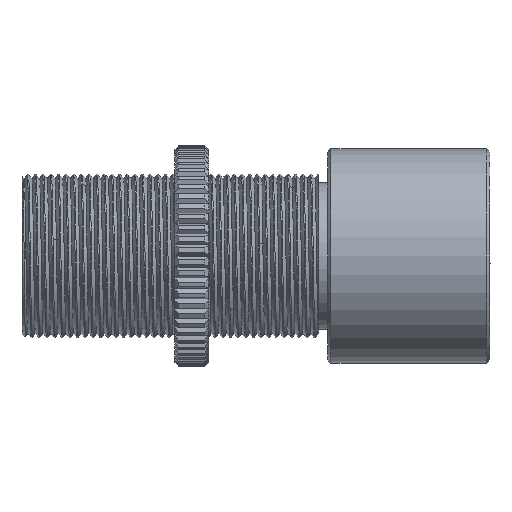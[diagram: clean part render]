
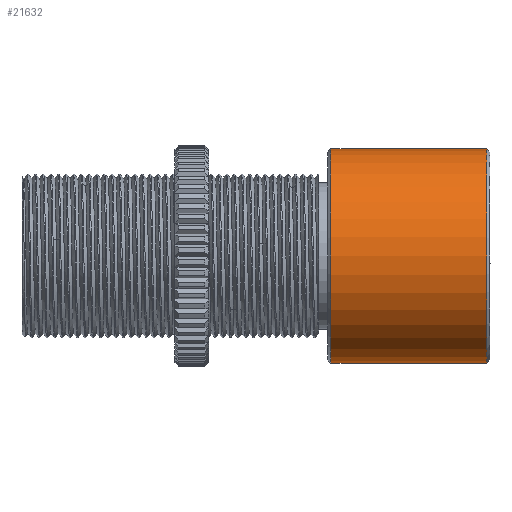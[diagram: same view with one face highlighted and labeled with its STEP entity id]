
A CAD part, front view. The second image highlights one B-rep face of the part: STEP entity #21632.
In plain terms, the highlighted cylindrical face has radius 8.89 mm (diameter 17.78 mm), a partial arc.
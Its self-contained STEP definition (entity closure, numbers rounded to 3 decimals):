
#12561=CARTESIAN_POINT('',(-0.254,0.,0.));
#12562=DIRECTION('',(1.,0.,0.));
#12563=DIRECTION('',(0.,0.,1.));
#12564=AXIS2_PLACEMENT_3D('',#12561,#12562,#12563);
#12575=DIRECTION('',(-1.,0.,0.));
#12576=VECTOR('',#12575,12.954);
#12577=CARTESIAN_POINT('',(-0.254,0.,-8.89));
#12578=LINE('',#12577,#12576);
#12612=CARTESIAN_POINT('',(-13.208,0.,0.));
#12613=DIRECTION('',(-1.,0.,0.));
#12614=DIRECTION('',(0.,0.,-1.));
#12615=AXIS2_PLACEMENT_3D('',#12612,#12613,#12614);
#12617=DIRECTION('',(-1.,0.,0.));
#12618=VECTOR('',#12617,12.954);
#12619=CARTESIAN_POINT('',(-0.254,0.,8.89));
#12620=LINE('',#12619,#12618);
#21175=CARTESIAN_POINT('',(-0.254,0.,8.89));
#21176=CARTESIAN_POINT('',(-13.208,0.,8.89));
#21177=VERTEX_POINT('',#21175);
#21178=VERTEX_POINT('',#21176);
#21183=CARTESIAN_POINT('',(-0.254,0.,-8.89));
#21184=CARTESIAN_POINT('',(-13.208,0.,-8.89));
#21185=VERTEX_POINT('',#21183);
#21186=VERTEX_POINT('',#21184);
#21621=CARTESIAN_POINT('',(0.,0.,0.));
#21622=DIRECTION('',(1.,0.,0.));
#21623=DIRECTION('',(0.,0.,-1.));
#21624=AXIS2_PLACEMENT_3D('',#21621,#21622,#21623);
#21625=CYLINDRICAL_SURFACE('',#21624,8.89);
#21626=ORIENTED_EDGE('',*,*,#21571,.F.);
#21627=ORIENTED_EDGE('',*,*,#21540,.T.);
#21628=ORIENTED_EDGE('',*,*,#21568,.T.);
#21629=ORIENTED_EDGE('',*,*,#21614,.T.);
#21630=EDGE_LOOP('',(#21626,#21627,#21628,#21629));
#21631=FACE_OUTER_BOUND('',#21630,.F.);
#21632=ADVANCED_FACE('',(#21631),#21625,.T.);
#12565=CIRCLE('',#12564,8.89);
#12616=CIRCLE('',#12615,8.89);
#21540=EDGE_CURVE('',#21177,#21185,#12565,.T.);
#21568=EDGE_CURVE('',#21185,#21186,#12578,.T.);
#21571=EDGE_CURVE('',#21177,#21178,#12620,.T.);
#21614=EDGE_CURVE('',#21186,#21178,#12616,.T.);
